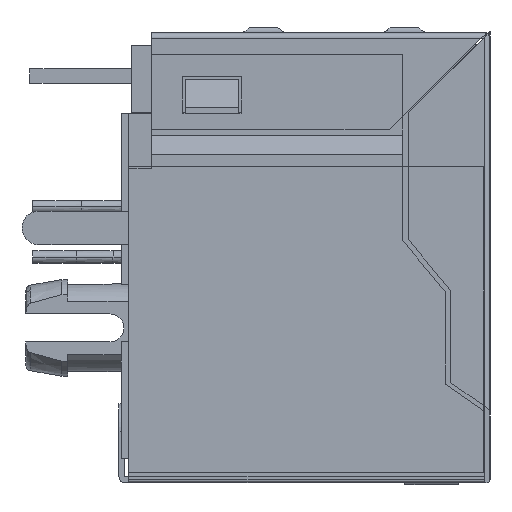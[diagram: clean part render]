
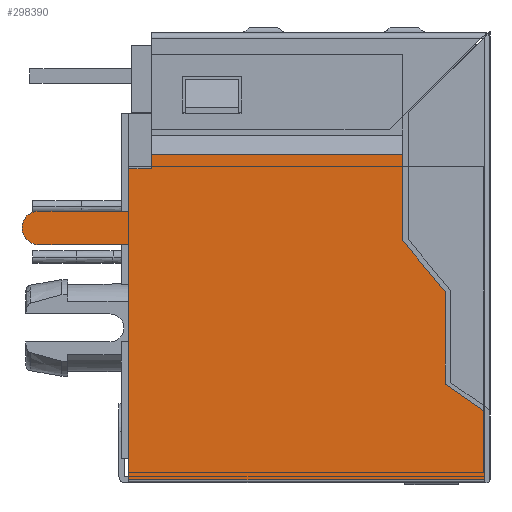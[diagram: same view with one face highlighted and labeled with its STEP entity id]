
A CAD part, left-side view. The second image highlights one B-rep face of the part: STEP entity #298390.
In plain terms, the highlighted planar face has unit normal (-1, 0, 0).
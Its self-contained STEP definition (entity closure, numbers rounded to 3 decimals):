
#291607=DIRECTION('',(0.,1.,0.));
#291608=VECTOR('',#291607,12.65);
#291609=CARTESIAN_POINT('',(-103.85,113.658,
-0.039));
#291610=LINE('',#291609,#291608);
#291615=DIRECTION('',(0.,1.,0.));
#291616=VECTOR('',#291615,8.95);
#291617=CARTESIAN_POINT('',(-103.85,116.558,
11.524));
#291618=LINE('',#291617,#291616);
#291619=DIRECTION('',(0.,0.64,0.768));
#291620=VECTOR('',#291619,2.343);
#291621=CARTESIAN_POINT('',(-103.85,115.058,6.661));
#291622=LINE('',#291621,#291620);
#291623=DIRECTION('',(0.,0.822,0.569));
#291624=VECTOR('',#291623,1.703);
#291625=CARTESIAN_POINT('',(-103.85,113.658,
2.392));
#291626=LINE('',#291625,#291624);
#291627=DIRECTION('',(0.,0.,1.));
#291628=VECTOR('',#291627,2.431);
#291629=CARTESIAN_POINT('',(-103.85,113.658,
-0.039));
#291630=LINE('',#291629,#291628);
#291631=DIRECTION('',(0.,0.,-1.));
#291632=VECTOR('',#291631,8.36);
#291633=CARTESIAN_POINT('',(-103.85,126.308,8.321));
#291634=LINE('',#291633,#291632);
#291635=DIRECTION('',(0.,-1.,0.));
#291636=VECTOR('',#291635,3.2);
#291637=CARTESIAN_POINT('',(-103.85,129.508,8.321));
#291638=LINE('',#291637,#291636);
#291639=CARTESIAN_POINT('',(-103.85,129.508,8.921));
#291640=DIRECTION('',(-1.,0.,0.));
#291641=DIRECTION('',(0.,0.,1.));
#291642=AXIS2_PLACEMENT_3D('',#291639,#291640,#291641);
#291644=DIRECTION('',(0.,0.,-1.));
#291645=VECTOR('',#291644,1.502);
#291646=CARTESIAN_POINT('',(-103.85,126.308,
11.024));
#291647=LINE('',#291646,#291645);
#291648=DIRECTION('',(0.,1.,0.));
#291649=VECTOR('',#291648,0.8);
#291650=CARTESIAN_POINT('',(-103.85,125.508,
11.024));
#291651=LINE('',#291650,#291649);
#291652=DIRECTION('',(0.,0.,-1.));
#291653=VECTOR('',#291652,0.5);
#291654=CARTESIAN_POINT('',(-103.85,125.508,
11.524));
#291655=LINE('',#291654,#291653);
#291848=DIRECTION('',(0.,0.,-1.));
#291849=VECTOR('',#291848,3.062);
#291850=CARTESIAN_POINT('',(-103.85,116.558,
11.524));
#291851=LINE('',#291850,#291849);
#291872=DIRECTION('',(0.,0.,-1.));
#291873=VECTOR('',#291872,3.3);
#291874=CARTESIAN_POINT('',(-103.85,115.058,6.661));
#291875=LINE('',#291874,#291873);
#291912=DIRECTION('',(0.,-1.,0.));
#291913=VECTOR('',#291912,3.2);
#291914=CARTESIAN_POINT('',(-103.85,129.508,9.521));
#291915=LINE('',#291914,#291913);
#293459=CARTESIAN_POINT('',(-103.85,125.508,
11.524));
#293460=VERTEX_POINT('',#293459);
#293461=CARTESIAN_POINT('',(-103.85,116.558,
11.524));
#293462=VERTEX_POINT('',#293461);
#293475=CARTESIAN_POINT('',(-103.85,125.508,
11.024));
#293476=VERTEX_POINT('',#293475);
#293477=CARTESIAN_POINT('',(-103.85,126.308,
11.024));
#293478=VERTEX_POINT('',#293477);
#293479=CARTESIAN_POINT('',(-103.85,113.658,
-0.039));
#293480=CARTESIAN_POINT('',(-103.85,126.308,
-0.039));
#293481=VERTEX_POINT('',#293479);
#293482=VERTEX_POINT('',#293480);
#293483=CARTESIAN_POINT('',(-103.85,113.658,
2.392));
#293484=VERTEX_POINT('',#293483);
#293485=CARTESIAN_POINT('',(-103.85,115.058,3.361));
#293486=VERTEX_POINT('',#293485);
#293487=CARTESIAN_POINT('',(-103.85,115.058,6.661));
#293488=VERTEX_POINT('',#293487);
#293489=CARTESIAN_POINT('',(-103.85,116.558,8.461));
#293490=VERTEX_POINT('',#293489);
#294744=CARTESIAN_POINT('',(-103.85,129.508,9.521));
#294745=CARTESIAN_POINT('',(-103.85,126.308,9.521));
#294746=VERTEX_POINT('',#294744);
#294747=VERTEX_POINT('',#294745);
#294748=CARTESIAN_POINT('',(-103.85,129.508,8.321));
#294749=VERTEX_POINT('',#294748);
#294750=CARTESIAN_POINT('',(-103.85,126.308,8.321));
#294751=VERTEX_POINT('',#294750);
#298358=CARTESIAN_POINT('',(-103.85,125.508,
10.963));
#298359=DIRECTION('',(1.,0.,0.));
#298360=DIRECTION('',(0.,0.,-1.));
#298361=AXIS2_PLACEMENT_3D('',#298358,#298359,#298360);
#298362=PLANE('',#298361);
#298364=ORIENTED_EDGE('',*,*,#298363,.F.);
#298366=ORIENTED_EDGE('',*,*,#298365,.T.);
#298368=ORIENTED_EDGE('',*,*,#298367,.F.);
#298370=ORIENTED_EDGE('',*,*,#298369,.T.);
#298372=ORIENTED_EDGE('',*,*,#298371,.F.);
#298373=ORIENTED_EDGE('',*,*,#298334,.F.);
#298374=ORIENTED_EDGE('',*,*,#298350,.T.);
#298375=ORIENTED_EDGE('',*,*,#298283,.F.);
#298377=ORIENTED_EDGE('',*,*,#298376,.F.);
#298379=ORIENTED_EDGE('',*,*,#298378,.F.);
#298381=ORIENTED_EDGE('',*,*,#298380,.T.);
#298383=ORIENTED_EDGE('',*,*,#298382,.F.);
#298385=ORIENTED_EDGE('',*,*,#298384,.F.);
#298387=ORIENTED_EDGE('',*,*,#298386,.F.);
#298388=EDGE_LOOP('',(#298364,#298366,#298368,#298370,#298372,#298373,#298374,
#298375,#298377,#298379,#298381,#298383,#298385,#298387));
#298389=FACE_OUTER_BOUND('',#298388,.F.);
#298390=ADVANCED_FACE('',(#298389),#298362,.F.);
#291643=CIRCLE('',#291642,0.6);
#298283=EDGE_CURVE('',#294751,#293482,#291634,.T.);
#298334=EDGE_CURVE('',#293481,#293484,#291630,.T.);
#298350=EDGE_CURVE('',#293481,#293482,#291610,.T.);
#298363=EDGE_CURVE('',#293462,#293460,#291618,.T.);
#298365=EDGE_CURVE('',#293462,#293490,#291851,.T.);
#298367=EDGE_CURVE('',#293488,#293490,#291622,.T.);
#298369=EDGE_CURVE('',#293488,#293486,#291875,.T.);
#298371=EDGE_CURVE('',#293484,#293486,#291626,.T.);
#298376=EDGE_CURVE('',#294749,#294751,#291638,.T.);
#298378=EDGE_CURVE('',#294746,#294749,#291643,.T.);
#298380=EDGE_CURVE('',#294746,#294747,#291915,.T.);
#298382=EDGE_CURVE('',#293478,#294747,#291647,.T.);
#298384=EDGE_CURVE('',#293476,#293478,#291651,.T.);
#298386=EDGE_CURVE('',#293460,#293476,#291655,.T.);
